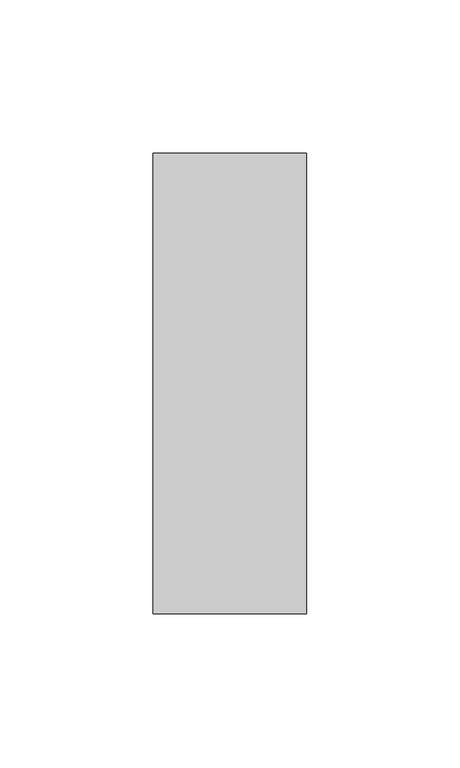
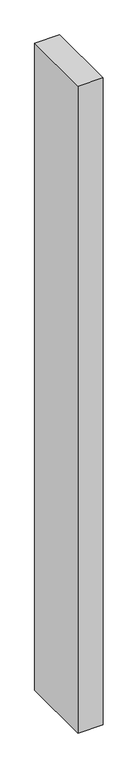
"""IFC4 building model written with IfcOpenShell, lengths in millimetres: member geometry, Прямоугольный импост : 50 x 150 мм."""

from ifc_helpers import new_model, si_unit, frame, origin, place, context, project, spatial, polyline, outline, extrude, source, transform, mapped, element, save


def member_bf8c5db5(model_context):
    return source(origin(), model_context, "Body", "SweptSolid", [
        extrude(outline(polyline([(25.0, 75.0), (25.0, -75.0), (-25.0, -75.0), (-25.0, 75.0), (25.0, 75.0)])), frame((0.0, 0.0, -1367.7113235), z_axis=(0.0, 0.0, 1.0), x_axis=(1.0, 0.0, 0.0)), (0.0, 0.0, 1.0), 1367.7113235),
    ])


if __name__ == "__main__":
    model = new_model("IFC4")
    model_context = context("Model", 3, world=origin())
    ifc_project = project(units=[si_unit("LENGTHUNIT", "METRE", prefix="MILLI")], contexts=[model_context])
    site = spatial("IfcSite", under=ifc_project)
    building = spatial("IfcBuilding", under=site)
    placement = place(None, origin())
    member_shape = member_bf8c5db5(model_context)
    element("IfcMember", 1, ObjectType="Прямоугольный импост : 50 x 150 мм", at=placement, inside=building, context=model_context, shape_type="MappedRepresentation", body=[
        mapped(member_shape, transform((0.0, 0.0, 0.0), x_axis=(1.0, 0.0, 0.0), y_axis=(0.0, 1.0, 0.0), z_axis=(0.0, 0.0, 1.0))),
    ])
    save(model, "model.ifc")
